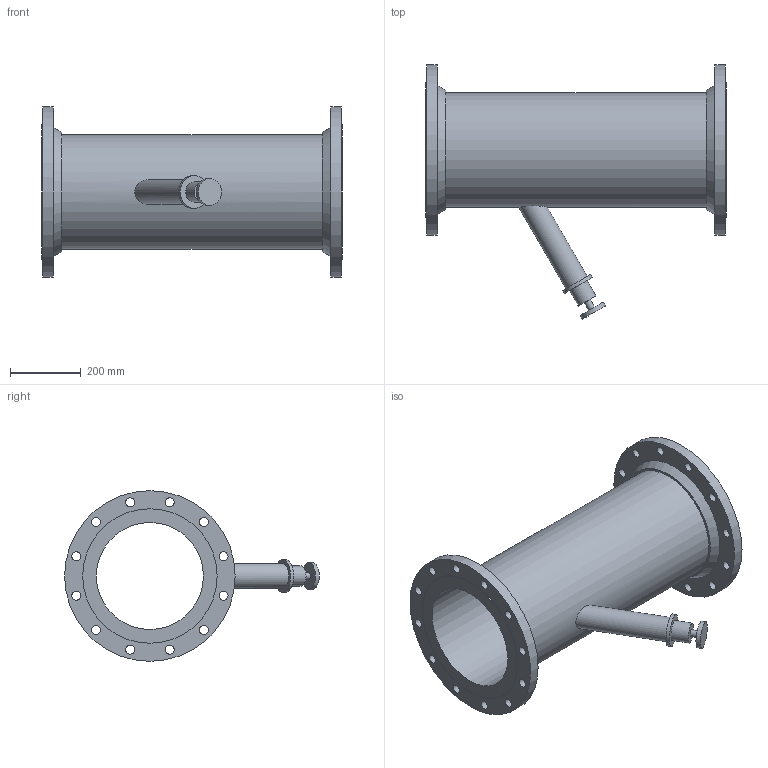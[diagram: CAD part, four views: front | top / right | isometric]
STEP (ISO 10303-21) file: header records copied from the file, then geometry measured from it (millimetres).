
FILE_DESCRIPTION(/* description */ ('VIC TA CIRCUIT BALANCING VALVE SERIES 788 (FLG)','CAx-IF Rec.Pracs.---Representation and Presentation of Product Manufacturing Information (PMI)---4.0---2014-10-13'),/* implementation_level */ '2;1');
FILE_NAME(/* name */ 'C:\Users\Vjadhav\AppData\Roaming\Autodesk\ApplicationPlugins\Back Up\Victaulic-IPS-TA Balancing Valve Series 788\Victaulic-IPS-TA Balancing Valve Series 788_12 (300).stp',/* time_stamp */ '2020-03-19T19:19:52+06:00',/* author */ ('cps_temp'),/* organization */ ('Victaulic'),/* preprocessor_version */ 'ST-DEVELOPER v17.2',/* originating_system */ 'Autodesk Inventor 2019',/* authorisation */ '');
FILE_SCHEMA (('AP242_MANAGED_MODEL_BASED_3D_ENGINEERING_MIM_LF { 1 0 10303 442 1 1 4 }'));
Length unit declared in the file: inch
Products named in the file (1): 788-12.0
Bounding box: 849.88 x 721.61 x 483.11 mm (x, y, z)
Volume: 16366631.3 mm3; surface area: 2229074 mm2
Topology: 1 solids, 1 shells, 50 faces, 139 edges, 101 vertices
Faces by surface type: cylinder 35, plane 13, cone 2
Full cylindrical faces by diameter (mm): 19.05 x1, 25.4 x24, 57.15 x1, 69.85 x1, 76.2 x1, 92.05 x1, 303.225 x1, 323.85 x1, 381 x2, 483.108 x2
Entity records: 2044 total; most frequent: CARTESIAN_POINT 375, DIRECTION 362, ORIENTED_EDGE 278, AXIS2_PLACEMENT_3D 162, EDGE_CURVE 139, EDGE_LOOP 110, VERTEX_POINT 101, CIRCLE 98
